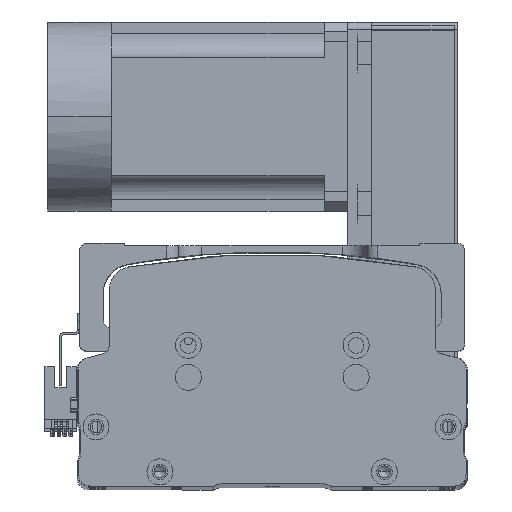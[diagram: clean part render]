
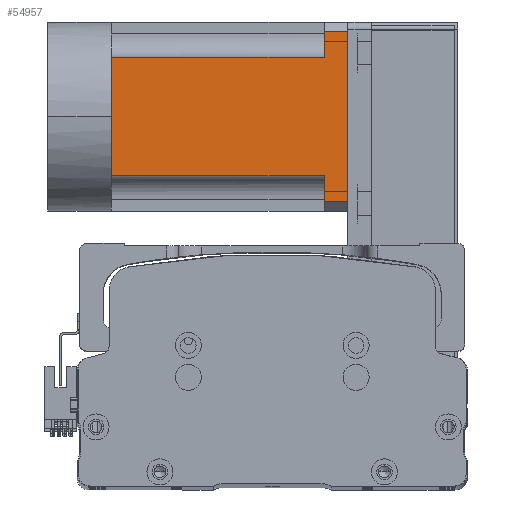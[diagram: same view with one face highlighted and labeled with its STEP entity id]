
A CAD part, top view. The second image highlights one B-rep face of the part: STEP entity #54957.
In plain terms, the highlighted planar face has unit normal (0, 0, 1) as drawn and (0, 0, -1) by its records, which use the part's own axes.
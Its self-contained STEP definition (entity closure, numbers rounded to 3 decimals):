
#1287 = DIRECTION ( 'NONE',  ( 0., 0., -1. ) ) ;
#4293 = CARTESIAN_POINT ( 'NONE',  ( -36., -27., -40. ) ) ;
#6716 = FACE_OUTER_BOUND ( 'NONE', #34977, .T. ) ;
#8248 = ORIENTED_EDGE ( 'NONE', *, *, #26052, .T. ) ;
#8500 = EDGE_CURVE ( 'NONE', #38676, #58584, #61798, .T. ) ;
#8918 = CARTESIAN_POINT ( 'NONE',  ( -40., 90., -40. ) ) ;
#9193 = LINE ( 'NONE', #60317, #45142 ) ;
#9773 = AXIS2_PLACEMENT_3D ( 'NONE', #25638, #1287, #35431 ) ;
#11957 = CARTESIAN_POINT ( 'NONE',  ( 36., 100., -40. ) ) ;
#15537 = VECTOR ( 'NONE', #38459, 1000. ) ;
#16436 = VECTOR ( 'NONE', #54040, 1000. ) ;
#16774 = CARTESIAN_POINT ( 'NONE',  ( 25., 90., -40. ) ) ;
#16813 = EDGE_CURVE ( 'NONE', #45888, #53471, #43038, .T. ) ;
#17402 = VECTOR ( 'NONE', #43163, 1000. ) ;
#17488 = DIRECTION ( 'NONE',  ( -1., 0., 0. ) ) ;
#18541 = ORIENTED_EDGE ( 'NONE', *, *, #51127, .T. ) ;
#19329 = CARTESIAN_POINT ( 'NONE',  ( 36., 90., -40. ) ) ;
#21794 = CARTESIAN_POINT ( 'NONE',  ( -40., 100., -40. ) ) ;
#22550 = VERTEX_POINT ( 'NONE', #16774 ) ;
#22592 = CARTESIAN_POINT ( 'NONE',  ( -40., 0., -40. ) ) ;
#22925 = CARTESIAN_POINT ( 'NONE',  ( -25., 0., -40. ) ) ;
#24779 = CARTESIAN_POINT ( 'NONE',  ( -40., 90., -40. ) ) ;
#25421 = VERTEX_POINT ( 'NONE', #22925 ) ;
#25502 = VECTOR ( 'NONE', #44362, 1000. ) ;
#25638 = CARTESIAN_POINT ( 'NONE',  ( -40., -27., -40. ) ) ;
#26052 = EDGE_CURVE ( 'NONE', #40407, #45888, #53862, .T. ) ;
#26226 = VECTOR ( 'NONE', #40850, 1000. ) ;
#26405 = LINE ( 'NONE', #21794, #52394 ) ;
#27297 = ORIENTED_EDGE ( 'NONE', *, *, #8500, .T. ) ;
#27664 = EDGE_CURVE ( 'NONE', #22550, #38676, #52226, .T. ) ;
#29044 = ORIENTED_EDGE ( 'NONE', *, *, #16813, .T. ) ;
#29154 = VERTEX_POINT ( 'NONE', #19329 ) ;
#29236 = CARTESIAN_POINT ( 'NONE',  ( 25., 0., -40. ) ) ;
#30375 = LINE ( 'NONE', #8918, #17402 ) ;
#30547 = PLANE ( 'NONE',  #9773 ) ;
#31431 = CARTESIAN_POINT ( 'NONE',  ( -36., 90., -40. ) ) ;
#34977 = EDGE_LOOP ( 'NONE', ( #59320, #41400, #62167, #55363, #27297, #18541, #34979, #8248, #29044 ) ) ;
#34979 = ORIENTED_EDGE ( 'NONE', *, *, #38603, .T. ) ;
#35431 = DIRECTION ( 'NONE',  ( -1., 0., 0. ) ) ;
#38459 = DIRECTION ( 'NONE',  ( 0., 1., 0. ) ) ;
#38542 = CARTESIAN_POINT ( 'NONE',  ( 0., 0., -40. ) ) ;
#38603 = EDGE_CURVE ( 'NONE', #25421, #40407, #45487, .T. ) ;
#38676 = VERTEX_POINT ( 'NONE', #29236 ) ;
#39443 = CARTESIAN_POINT ( 'NONE',  ( -40., 0., -40. ) ) ;
#40407 = VERTEX_POINT ( 'NONE', #53595 ) ;
#40850 = DIRECTION ( 'NONE',  ( 0., -1., 0. ) ) ;
#41400 = ORIENTED_EDGE ( 'NONE', *, *, #61607, .T. ) ;
#42591 = EDGE_CURVE ( 'NONE', #29154, #22550, #30375, .T. ) ;
#42655 = CARTESIAN_POINT ( 'NONE',  ( -36., 100., -40. ) ) ;
#43038 = LINE ( 'NONE', #4293, #15537 ) ;
#43163 = DIRECTION ( 'NONE',  ( -1., 0., 0. ) ) ;
#44362 = DIRECTION ( 'NONE',  ( -1., 0., 0. ) ) ;
#45142 = VECTOR ( 'NONE', #50790, 1000. ) ;
#45487 = LINE ( 'NONE', #62661, #56944 ) ;
#45888 = VERTEX_POINT ( 'NONE', #31431 ) ;
#46104 = DIRECTION ( 'NONE',  ( -1., 0., 0. ) ) ;
#47314 = VECTOR ( 'NONE', #17488, 1000. ) ;
#48171 = DIRECTION ( 'NONE',  ( 0., 1., 0. ) ) ;
#50790 = DIRECTION ( 'NONE',  ( 0., -1., 0. ) ) ;
#51127 = EDGE_CURVE ( 'NONE', #58584, #25421, #62890, .T. ) ;
#52226 = LINE ( 'NONE', #55385, #26226 ) ;
#52394 = VECTOR ( 'NONE', #46104, 1000. ) ;
#53471 = VERTEX_POINT ( 'NONE', #42655 ) ;
#53595 = CARTESIAN_POINT ( 'NONE',  ( -25., 90., -40. ) ) ;
#53862 = LINE ( 'NONE', #24779, #16436 ) ;
#54040 = DIRECTION ( 'NONE',  ( -1., 0., 0. ) ) ;
#54957 = ADVANCED_FACE ( 'NONE', ( #6716 ), #30547, .T. ) ;
#55363 = ORIENTED_EDGE ( 'NONE', *, *, #27664, .T. ) ;
#55385 = CARTESIAN_POINT ( 'NONE',  ( 25., -27., -40. ) ) ;
#56944 = VECTOR ( 'NONE', #48171, 1000. ) ;
#58584 = VERTEX_POINT ( 'NONE', #38542 ) ;
#59320 = ORIENTED_EDGE ( 'NONE', *, *, #59457, .F. ) ;
#59457 = EDGE_CURVE ( 'NONE', #61249, #53471, #26405, .T. ) ;
#60317 = CARTESIAN_POINT ( 'NONE',  ( 36., -27., -40. ) ) ;
#61249 = VERTEX_POINT ( 'NONE', #11957 ) ;
#61607 = EDGE_CURVE ( 'NONE', #61249, #29154, #9193, .T. ) ;
#61798 = LINE ( 'NONE', #22592, #47314 ) ;
#62167 = ORIENTED_EDGE ( 'NONE', *, *, #42591, .T. ) ;
#62661 = CARTESIAN_POINT ( 'NONE',  ( -25., -27., -40. ) ) ;
#62890 = LINE ( 'NONE', #39443, #25502 ) ;
